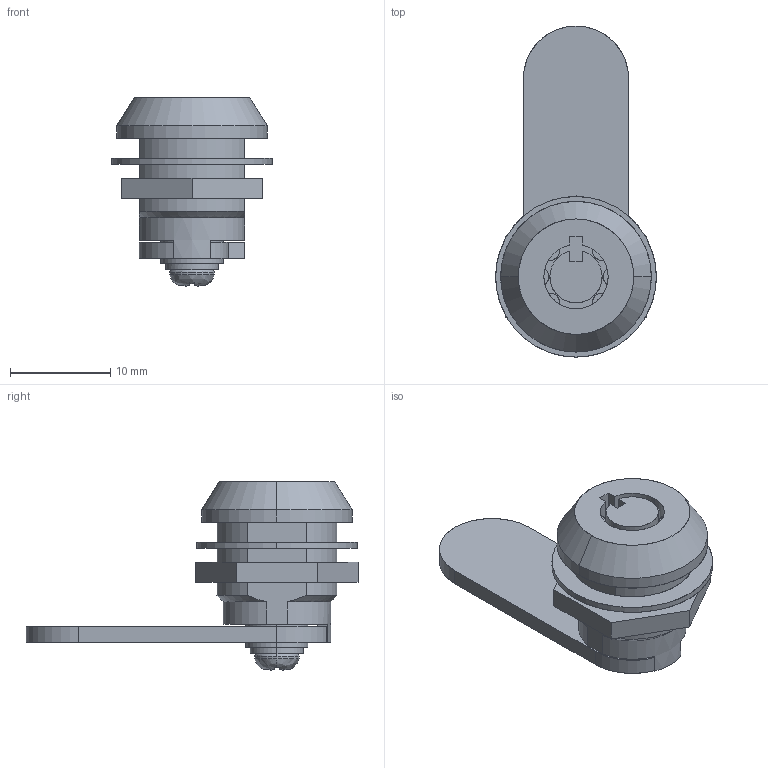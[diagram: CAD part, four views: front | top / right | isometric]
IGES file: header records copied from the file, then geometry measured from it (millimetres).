
Start section: SolidWorks IGES file using analytic representation for surfaces
Bounding box: 16 x 33.08 x 18.76 mm (x, y, z)
Surface area: 2513.8 mm2 (no closed solid volume)
Topology: 0 solids, 0 shells, 141 faces, 1898 edges, 1898 vertices
Faces by surface type: bspline 81, revolution 60
